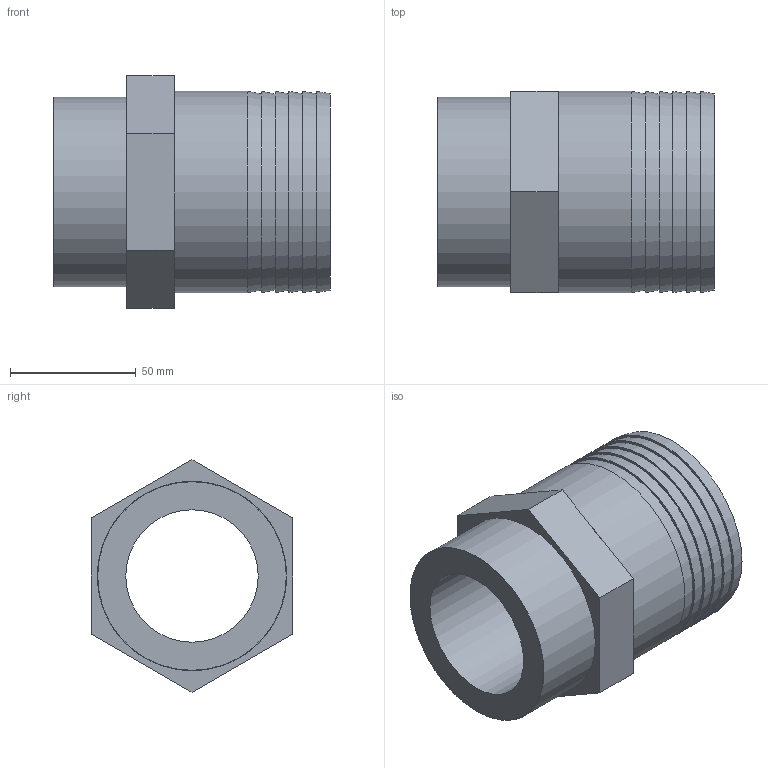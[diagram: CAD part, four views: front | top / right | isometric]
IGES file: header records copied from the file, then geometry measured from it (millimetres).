
Global section: file name: 053601080025.ipt; native system: Autodesk Inventor 2015; preprocessor: unknown; author: KIM; date: 20171207.165535; units: millimetre
Bounding box: 110 x 80 x 92.38 mm (x, y, z)
Volume: 302419.5 mm3; surface area: 53595.8 mm2
Topology: 1 solids, 1 shells, 30 faces, 61 edges, 39 vertices
Faces by surface type: plane 20, cone 6, revolution 2, cylinder 2
Full cylindrical faces by diameter (mm): 75.184 x1, 80 x1
